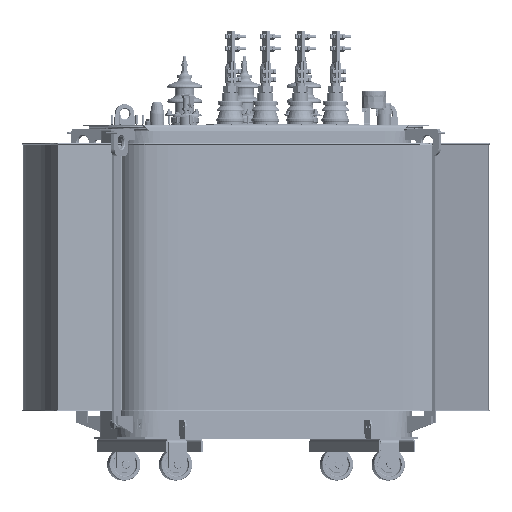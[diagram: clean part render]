
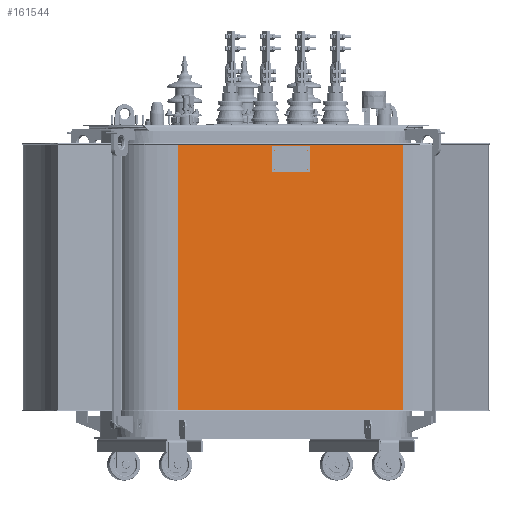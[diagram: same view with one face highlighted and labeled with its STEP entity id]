
A CAD part, front view. The second image highlights one B-rep face of the part: STEP entity #161544.
In plain terms, the highlighted planar face has unit normal (-0.237, 0.972, 0).
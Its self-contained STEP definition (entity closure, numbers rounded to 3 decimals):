
#14367=LINE('',#328752,#23827);
#14368=LINE('',#328756,#23828);
#14369=LINE('',#328758,#23829);
#14370=LINE('',#328759,#23830);
#23827=VECTOR('',#217098,100.);
#23828=VECTOR('',#217103,86.8);
#23829=VECTOR('',#217104,100.);
#23830=VECTOR('',#217105,86.8);
#30173=PLANE('',#176954);
#44520=FACE_OUTER_BOUND('',#56339,.T.);
#56339=EDGE_LOOP('',(#142379,#142380,#142381,#142382));
#77687=VERTEX_POINT('',#328749);
#77688=VERTEX_POINT('',#328751);
#77689=VERTEX_POINT('',#328755);
#77690=VERTEX_POINT('',#328757);
#99226=EDGE_CURVE('',#77687,#77688,#14367,.T.);
#99228=EDGE_CURVE('',#77689,#77687,#14368,.T.);
#99229=EDGE_CURVE('',#77689,#77690,#14369,.T.);
#99230=EDGE_CURVE('',#77690,#77688,#14370,.T.);
#142379=ORIENTED_EDGE('',*,*,#99228,.F.);
#142380=ORIENTED_EDGE('',*,*,#99229,.T.);
#142381=ORIENTED_EDGE('',*,*,#99230,.T.);
#142382=ORIENTED_EDGE('',*,*,#99226,.F.);
#161544=ADVANCED_FACE('',(#44520),#30173,.F.);
#176954=AXIS2_PLACEMENT_3D('',#328754,#217101,#217102);
#217098=DIRECTION('',(0.,0.,-1.));
#217101=DIRECTION('center_axis',(0.237,-0.972,0.));
#217102=DIRECTION('ref_axis',(-0.972,-0.237,0.));
#217103=DIRECTION('',(-0.972,-0.237,0.));
#217104=DIRECTION('',(0.,0.,-1.));
#217105=DIRECTION('',(-0.972,-0.237,0.));
#328749=CARTESIAN_POINT('',(32.514,66.831,113.244));
#328751=CARTESIAN_POINT('',(32.514,66.831,13.244));
#328752=CARTESIAN_POINT('',(32.514,66.831,113.244));
#328754=CARTESIAN_POINT('Origin',(116.847,87.377,113.244));
#328755=CARTESIAN_POINT('',(116.847,87.377,113.244));
#328756=CARTESIAN_POINT('',(116.847,87.377,113.244));
#328757=CARTESIAN_POINT('',(116.847,87.377,13.244));
#328758=CARTESIAN_POINT('',(116.847,87.377,113.244));
#328759=CARTESIAN_POINT('',(116.847,87.377,13.244));
